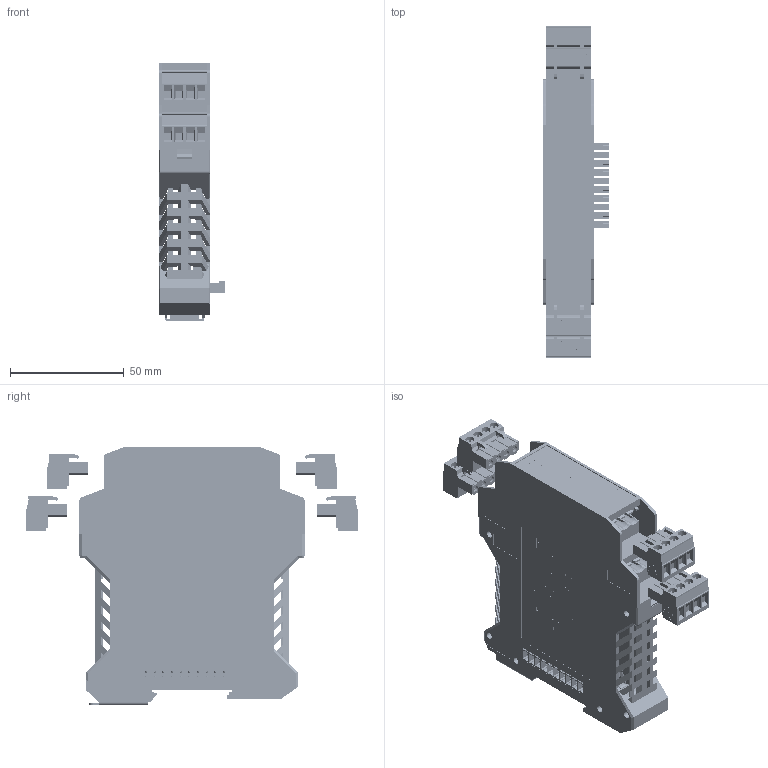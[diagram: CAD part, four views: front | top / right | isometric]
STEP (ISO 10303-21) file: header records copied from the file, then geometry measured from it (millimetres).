
FILE_DESCRIPTION(('STEP AP203'), '1');
FILE_NAME('鍛鍧 BCE-3-2_', '', ('UNSPECIFIED'), ('UNSPECIFIED'), 'ASCON STEP Converter 1.3', 'ASCON Math Kernel', '');
FILE_SCHEMA(('CONFIG_CONTROL_DESIGN'));
Length unit declared in the file: millimetre
Products named in the file (17): MSTBT_2.5-4-ST; ME_22.5_UTR_H_BUS_10_H.Select__00496319; ME_Verriegelungshaken_H.Select__00446697; ME_22.5_UTL_H_BUS_10_H.Select__00496310; ME_BUS_22.5_MC_10-ST_H.Select__00493208; ME_BUS_FE-CONTACT_H.Select__00437355; Fussriegel_17.5_L30_H.Select__00315466; ME_22_5_OT-MSTBO_H.Select__00273265; MSTBO_2_5_4-G1L_H.Select__00364411; MSTBO_2_5_4-G1R_H.Select__00364505
Assembly tree (22 placements, depth 5):
  (unnamed)
    MSTBT_2.5-4-ST  x4
      MSTBT_2.5-4-ST
    (unnamed)
      (unnamed)
        (unnamed)
          ME_22.5_UTR_H_BUS_10_H.Select__00496319
          ME_Verriegelungshaken_H.Select__00446697  x2
          ME_22.5_UTL_H_BUS_10_H.Select__00496310
          ME_BUS_22.5_MC_10-ST_H.Select__00493208
          ME_BUS_FE-CONTACT_H.Select__00437355
          Fussriegel_17.5_L30_H.Select__00315466
      (unnamed)
        (unnamed)
          ME_22_5_OT-MSTBO_H.Select__00273265
          MSTBO_2_5_4-G1L_H.Select__00364411  x2
          MSTBO_2_5_4-G1R_H.Select__00364505  x2
Bounding box: 29.1 x 145.9 x 113.6 mm (x, y, z)
Volume: 76886.2 mm3; surface area: 99702.6 mm2
Topology: 19 solids, 21 shells, 20107 faces, 56900 edges, 37775 vertices
Faces by surface type: plane 11591, cylinder 8236, extrusion 250, cone 30
Full cylindrical faces by diameter (mm): 0.723 x7, 0.763 x7, 1.353 x16, 1.4 x32, 1.6 x20, 2 x6, 2.1 x7, 2.8 x32, 3 x12, 3.783 x16, 4 x16
Entity records: 712346 total; most frequent: CARTESIAN_POINT 103523, DIRECTION 99517, ORIENTED_EDGE 98952, EDGE_CURVE 49476, VECTOR 33493, LINE 33354, AXIS2_PLACEMENT_3D 33012, VERTEX_POINT 32955
